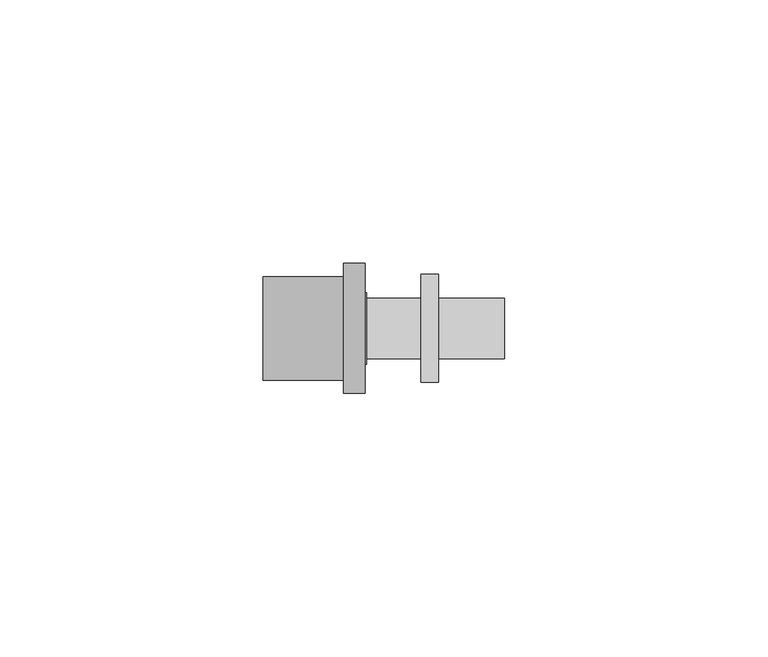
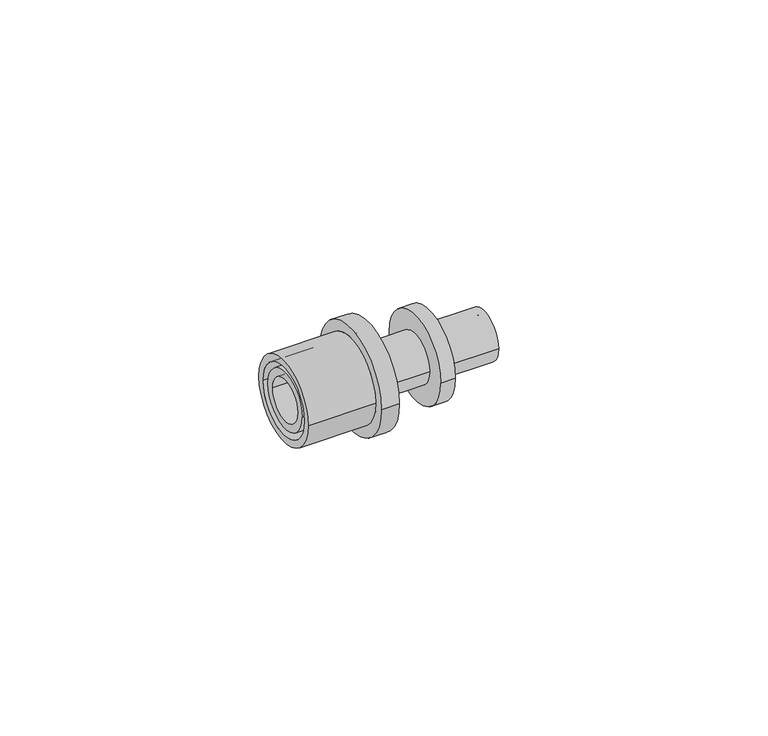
"""IFC4 building model written with IfcOpenShell, lengths in millimetres: pipe fitting geometry, FASTLOC_Adapter coupling EX+ : FSL TC EX+ AT."""

from ifc_helpers import new_model, si_unit, frame, origin, place, context, project, spatial, polyline, circle_curve, source, transform, mapped, element, save
from ifc_brep_helpers import plane_surface, cylinder_surface, revolved_surface, advanced_brep


def pipe_fitting_6d1999ba(model_context):
    return source(origin(), model_context, "Body", "AdvancedBrep", [
        advanced_brep(
        [(-4.3, -12.35, 0.0), (-4.3, 12.35, 0.0), (-0.3, 12.35, 0.0), (-0.3, -12.35, 0.0), (-19.6, -9.85, 0.0), (-19.6, 9.85, 0.0), (-4.3, 9.85, 0.0), (-4.3, -9.85, 0.0), (-0.3, -8.15, 0.0), (-0.3, 8.15, 0.0), (-19.6, 8.15, 0.0), (-19.6, -8.15, 0.0)],
        [
            (0, 1, circle_curve(frame((-4.3, 0.0, 0.0), z_axis=(1.0, 0.0, 0.0), x_axis=(0.0, 1.0, 0.0)), 12.35)),
            (1, 2),
            (2, 3, circle_curve(frame((-0.3, 0.0, 0.0), z_axis=(-1.0, 0.0, 0.0), x_axis=(0.0, 1.0, 0.0)), 12.35)),
            (3, 0),
            (4, 5, circle_curve(frame((-19.6, 0.0, 0.0), z_axis=(1.0, 0.0, 0.0), x_axis=(0.0, 1.0, 0.0)), 9.85)),
            (5, 6),
            (6, 7, circle_curve(frame((-4.3, 0.0, 0.0), z_axis=(-1.0, 0.0, 0.0), x_axis=(0.0, 1.0, 0.0)), 9.85)),
            (7, 4),
            (8, 9, circle_curve(frame((-0.3, 0.0, 0.0), z_axis=(1.0, 0.0, 0.0), x_axis=(0.0, 1.0, 0.0)), 8.15)),
            (9, 10),
            (10, 11, circle_curve(frame((-19.6, 0.0, 0.0), z_axis=(-1.0, 0.0, 0.0), x_axis=(0.0, 1.0, 0.0)), 8.15)),
            (11, 8),
            (1, 0, circle_curve(frame((-4.3, 0.0, 0.0), z_axis=(1.0, 0.0, 0.0), x_axis=(0.0, -1.0, 0.0)), 12.35)),
            (3, 2, circle_curve(frame((-0.3, 0.0, 0.0), z_axis=(-1.0, 0.0, 0.0), x_axis=(0.0, -1.0, 0.0)), 12.35)),
            (6, 7, circle_curve(frame((-4.3, 0.0, 0.0), z_axis=(1.0, 0.0, 0.0), x_axis=(0.0, -1.0, 0.0)), 9.85)),
            (5, 4, circle_curve(frame((-19.6, 0.0, 0.0), z_axis=(1.0, 0.0, 0.0), x_axis=(0.0, -1.0, 0.0)), 9.85)),
            (10, 11, circle_curve(frame((-19.6, 0.0, 0.0), z_axis=(1.0, 0.0, 0.0), x_axis=(0.0, -1.0, 0.0)), 8.15)),
            (9, 8, circle_curve(frame((-0.3, 0.0, 0.0), z_axis=(1.0, 0.0, 0.0), x_axis=(0.0, -1.0, 0.0)), 8.15)),
        ],
        [
            cylinder_surface(frame((-0.3, 0.0, 0.0), z_axis=(-1.0, 0.0, 0.0), x_axis=(0.0, 1.0, 0.0)), 12.35),
            cylinder_surface(frame((-0.3, 0.0, 0.0), z_axis=(-1.0, 0.0, 0.0), x_axis=(0.0, 1.0, 0.0)), 9.85),
            revolved_surface(polyline([(-19.6, 8.15, 0.0), (-0.3, 8.15, 0.0)]), (-0.3, 0.0, 0.0), (-1.0, 0.0, 0.0)),
            cylinder_surface(frame((-0.3, 0.0, 0.0), z_axis=(-1.0, 0.0, 0.0), x_axis=(0.0, -1.0, 0.0)), 12.35),
            plane_surface(frame((-4.3, 0.0, 0.0), z_axis=(-1.0, 0.0, 0.0), x_axis=(0.0, -1.0, 0.0))),
            cylinder_surface(frame((-0.3, 0.0, 0.0), z_axis=(-1.0, 0.0, 0.0), x_axis=(0.0, -1.0, 0.0)), 9.85),
            plane_surface(frame((-19.6, 0.0, 0.0), z_axis=(-1.0, 0.0, 0.0), x_axis=(0.0, -1.0, 0.0))),
            revolved_surface(polyline([(-19.6, -8.15, 0.0), (-0.3, -8.15, 0.0)]), (-0.3, 0.0, 0.0), (-1.0, 0.0, 0.0)),
            plane_surface(frame((-0.3, 0.0, 0.0), z_axis=(1.0, 0.0, 0.0), x_axis=(0.0, -1.0, 0.0))),
        ],
        [
            (0, [[1, 2, 3, 4]]),
            (1, [[5, 6, 7, 8]]),
            (2, [[9, 10, 11, 12]]),
            (3, [[13, -4, 14, -2]]),
            (4, [[-13, -1], [15, -7]]),
            (5, [[16, -8, -15, -6]]),
            (6, [[-16, -5], [17, -11]]),
            (7, [[18, -12, -17, -10]]),
            (8, [[-14, -3], [-18, -9]]),
        ],
    ),
        advanced_brep(
        [(0.0, 3.95, 0.0), (0.0, -3.95, 0.0), (26.2, -3.95, 0.0), (26.2, 3.95, 0.0), (10.4, 5.75, 0.0), (10.4, -5.75, 0.0), (0.0, -5.75, 0.0), (0.0, 5.75, 0.0), (13.7, 10.25, 0.0), (13.7, -10.25, 0.0), (10.4, -10.25, 0.0), (10.4, 10.25, 0.0), (26.2, 5.75, 0.0), (26.2, -5.75, 0.0), (13.7, -5.75, 0.0), (13.7, 5.75, 0.0)],
        [
            (0, 1, circle_curve(frame((0.0, 0.0, 0.0), z_axis=(-1.0, 0.0, 0.0), x_axis=(0.0, -1.0, 0.0)), 3.95)),
            (1, 2),
            (2, 3, circle_curve(frame((26.2, 0.0, 0.0), z_axis=(1.0, 0.0, 0.0), x_axis=(0.0, -1.0, 0.0)), 3.95)),
            (3, 0),
            (4, 5, circle_curve(frame((10.4, 0.0, 0.0), z_axis=(-1.0, 0.0, 0.0), x_axis=(0.0, -1.0, 0.0)), 5.75)),
            (5, 6),
            (6, 7, circle_curve(frame((0.0, 0.0, 0.0), z_axis=(1.0, 0.0, 0.0), x_axis=(0.0, -1.0, 0.0)), 5.75)),
            (7, 4),
            (8, 9, circle_curve(frame((13.7, 0.0, 0.0), z_axis=(-1.0, 0.0, 0.0), x_axis=(0.0, -1.0, 0.0)), 10.25)),
            (9, 10),
            (10, 11, circle_curve(frame((10.4, 0.0, 0.0), z_axis=(1.0, 0.0, 0.0), x_axis=(0.0, -1.0, 0.0)), 10.25)),
            (11, 8),
            (12, 13, circle_curve(frame((26.2, 0.0, 0.0), z_axis=(-1.0, 0.0, 0.0), x_axis=(0.0, -1.0, 0.0)), 5.75)),
            (13, 14),
            (14, 15, circle_curve(frame((13.7, 0.0, 0.0), z_axis=(1.0, 0.0, 0.0), x_axis=(0.0, -1.0, 0.0)), 5.75)),
            (15, 12),
            (1, 0, circle_curve(frame((0.0, 0.0, 0.0), z_axis=(-1.0, 0.0, 0.0), x_axis=(0.0, 1.0, 0.0)), 3.95)),
            (3, 2, circle_curve(frame((26.2, 0.0, 0.0), z_axis=(1.0, 0.0, 0.0), x_axis=(0.0, 1.0, 0.0)), 3.95)),
            (6, 7, circle_curve(frame((0.0, 0.0, 0.0), z_axis=(-1.0, 0.0, 0.0), x_axis=(0.0, 1.0, 0.0)), 5.75)),
            (5, 4, circle_curve(frame((10.4, 0.0, 0.0), z_axis=(-1.0, 0.0, 0.0), x_axis=(0.0, 1.0, 0.0)), 5.75)),
            (10, 11, circle_curve(frame((10.4, 0.0, 0.0), z_axis=(-1.0, 0.0, 0.0), x_axis=(0.0, 1.0, 0.0)), 10.25)),
            (9, 8, circle_curve(frame((13.7, 0.0, 0.0), z_axis=(-1.0, 0.0, 0.0), x_axis=(0.0, 1.0, 0.0)), 10.25)),
            (14, 15, circle_curve(frame((13.7, 0.0, 0.0), z_axis=(-1.0, 0.0, 0.0), x_axis=(0.0, 1.0, 0.0)), 5.75)),
            (13, 12, circle_curve(frame((26.2, 0.0, 0.0), z_axis=(-1.0, 0.0, 0.0), x_axis=(0.0, 1.0, 0.0)), 5.75)),
        ],
        [
            revolved_surface(polyline([(26.2, -3.95, 0.0), (0.0, -3.95, 0.0)]), (0.0, 0.0, 0.0), (1.0, 0.0, 0.0)),
            cylinder_surface(frame((0.0, 0.0, 0.0), z_axis=(1.0, 0.0, 0.0), x_axis=(0.0, -1.0, 0.0)), 5.75),
            cylinder_surface(frame((0.0, 0.0, 0.0), z_axis=(1.0, 0.0, 0.0), x_axis=(0.0, -1.0, 0.0)), 10.25),
            revolved_surface(polyline([(26.2, 3.95, 0.0), (0.0, 3.95, 0.0)]), (0.0, 0.0, 0.0), (1.0, 0.0, 0.0)),
            plane_surface(frame((0.0, 0.0, 0.0), z_axis=(-1.0, 0.0, 0.0), x_axis=(0.0, 1.0, 0.0))),
            cylinder_surface(frame((0.0, 0.0, 0.0), z_axis=(1.0, 0.0, 0.0), x_axis=(0.0, 1.0, 0.0)), 5.75),
            plane_surface(frame((10.4, 0.0, 0.0), z_axis=(-1.0, 0.0, 0.0), x_axis=(0.0, 1.0, 0.0))),
            cylinder_surface(frame((0.0, 0.0, 0.0), z_axis=(1.0, 0.0, 0.0), x_axis=(0.0, 1.0, 0.0)), 10.25),
            plane_surface(frame((13.7, 0.0, 0.0), z_axis=(1.0, 0.0, 0.0), x_axis=(0.0, 1.0, 0.0))),
            plane_surface(frame((26.2, 0.0, 0.0), z_axis=(1.0, 0.0, 0.0), x_axis=(0.0, 1.0, 0.0))),
        ],
        [
            (0, [[1, 2, 3, 4]]),
            (1, [[5, 6, 7, 8]]),
            (2, [[9, 10, 11, 12]]),
            (1, [[13, 14, 15, 16]]),
            (3, [[17, -4, 18, -2]]),
            (4, [[19, -7], [-17, -1]]),
            (5, [[20, -8, -19, -6]]),
            (6, [[21, -11], [-20, -5]]),
            (7, [[22, -12, -21, -10]]),
            (8, [[-22, -9], [23, -15]]),
            (5, [[24, -16, -23, -14]]),
            (9, [[-24, -13], [-18, -3]]),
        ],
    ),
        advanced_brep(
        [(-4.3, 6.8, 0.0), (-4.3, -6.8, 0.0), (-19.3, -6.8, 0.0), (-19.3, 6.8, 0.0), (-1.6, 7.9, 0.0), (-1.6, -7.9, 0.0), (-4.3, -7.9, 0.0), (-4.3, 7.9, 0.0), (0.0, 6.8, 0.0), (0.0, -6.8, 0.0), (-1.6, -6.8, 0.0), (-1.6, 6.8, 0.0), (-19.3, 4.95, 0.0), (-19.3, -4.95, 0.0), (0.0, -4.95, 0.0), (0.0, 4.95, 0.0)],
        [
            (0, 1, circle_curve(frame((-4.3, 0.0, 0.0), z_axis=(-1.0, 0.0, 0.0), x_axis=(0.0, -1.0, 0.0)), 6.8)),
            (1, 2),
            (2, 3, circle_curve(frame((-19.3, 0.0, 0.0), z_axis=(1.0, 0.0, 0.0), x_axis=(0.0, -1.0, 0.0)), 6.8)),
            (3, 0),
            (4, 5, circle_curve(frame((-1.6, 0.0, 0.0), z_axis=(-1.0, 0.0, 0.0), x_axis=(0.0, -1.0, 0.0)), 7.9)),
            (5, 6),
            (6, 7, circle_curve(frame((-4.3, 0.0, 0.0), z_axis=(1.0, 0.0, 0.0), x_axis=(0.0, -1.0, 0.0)), 7.9)),
            (7, 4),
            (8, 9, circle_curve(frame((0.0, 0.0, 0.0), z_axis=(-1.0, 0.0, 0.0), x_axis=(0.0, -1.0, 0.0)), 6.8)),
            (9, 10),
            (10, 11, circle_curve(frame((-1.6, 0.0, 0.0), z_axis=(1.0, 0.0, 0.0), x_axis=(0.0, -1.0, 0.0)), 6.8)),
            (11, 8),
            (12, 13, circle_curve(frame((-19.3, 0.0, 0.0), z_axis=(-1.0, 0.0, 0.0), x_axis=(0.0, -1.0, 0.0)), 4.95)),
            (13, 14),
            (14, 15, circle_curve(frame((0.0, 0.0, 0.0), z_axis=(1.0, 0.0, 0.0), x_axis=(0.0, -1.0, 0.0)), 4.95)),
            (15, 12),
            (2, 3, circle_curve(frame((-19.3, 0.0, 0.0), z_axis=(-1.0, 0.0, 0.0), x_axis=(0.0, 1.0, 0.0)), 6.8)),
            (12, 13, circle_curve(frame((-19.3, 0.0, 0.0), z_axis=(1.0, 0.0, 0.0), x_axis=(0.0, 1.0, 0.0)), 4.95)),
            (1, 0, circle_curve(frame((-4.3, 0.0, 0.0), z_axis=(-1.0, 0.0, 0.0), x_axis=(0.0, 1.0, 0.0)), 6.8)),
            (6, 7, circle_curve(frame((-4.3, 0.0, 0.0), z_axis=(-1.0, 0.0, 0.0), x_axis=(0.0, 1.0, 0.0)), 7.9)),
            (5, 4, circle_curve(frame((-1.6, 0.0, 0.0), z_axis=(-1.0, 0.0, 0.0), x_axis=(0.0, 1.0, 0.0)), 7.9)),
            (10, 11, circle_curve(frame((-1.6, 0.0, 0.0), z_axis=(-1.0, 0.0, 0.0), x_axis=(0.0, 1.0, 0.0)), 6.8)),
            (9, 8, circle_curve(frame((0.0, 0.0, 0.0), z_axis=(-1.0, 0.0, 0.0), x_axis=(0.0, 1.0, 0.0)), 6.8)),
            (14, 15, circle_curve(frame((0.0, 0.0, 0.0), z_axis=(-1.0, 0.0, 0.0), x_axis=(0.0, 1.0, 0.0)), 4.95)),
        ],
        [
            cylinder_surface(frame((0.0, 0.0, 0.0), z_axis=(1.0, 0.0, 0.0), x_axis=(0.0, -1.0, 0.0)), 6.8),
            cylinder_surface(frame((0.0, 0.0, 0.0), z_axis=(1.0, 0.0, 0.0), x_axis=(0.0, -1.0, 0.0)), 7.9),
            revolved_surface(polyline([(0.0, -4.95, 0.0), (-19.3, -4.95, 0.0)]), (0.0, 0.0, 0.0), (1.0, 0.0, 0.0)),
            plane_surface(frame((-19.3, 0.0, 0.0), z_axis=(-1.0, 0.0, 0.0), x_axis=(0.0, 1.0, 0.0))),
            cylinder_surface(frame((0.0, 0.0, 0.0), z_axis=(1.0, 0.0, 0.0), x_axis=(0.0, 1.0, 0.0)), 6.8),
            plane_surface(frame((-4.3, 0.0, 0.0), z_axis=(-1.0, 0.0, 0.0), x_axis=(0.0, 1.0, 0.0))),
            cylinder_surface(frame((0.0, 0.0, 0.0), z_axis=(1.0, 0.0, 0.0), x_axis=(0.0, 1.0, 0.0)), 7.9),
            plane_surface(frame((-1.6, 0.0, 0.0), z_axis=(1.0, 0.0, 0.0), x_axis=(0.0, 1.0, 0.0))),
            plane_surface(frame((0.0, 0.0, 0.0), z_axis=(1.0, 0.0, 0.0), x_axis=(0.0, 1.0, 0.0))),
            revolved_surface(polyline([(0.0, 4.95, 0.0), (-19.3, 4.95, 0.0)]), (0.0, 0.0, 0.0), (1.0, 0.0, 0.0)),
        ],
        [
            (0, [[1, 2, 3, 4]]),
            (1, [[5, 6, 7, 8]]),
            (0, [[9, 10, 11, 12]]),
            (2, [[13, 14, 15, 16]]),
            (3, [[17, -3], [18, -13]]),
            (4, [[19, -4, -17, -2]]),
            (5, [[20, -7], [-19, -1]]),
            (6, [[21, -8, -20, -6]]),
            (7, [[-21, -5], [22, -11]]),
            (4, [[23, -12, -22, -10]]),
            (8, [[-23, -9], [24, -15]]),
            (9, [[-18, -16, -24, -14]]),
        ],
    ),
    ])


if __name__ == "__main__":
    model = new_model("IFC4")
    model_context = context("Model", 3, world=origin())
    ifc_project = project(units=[si_unit("LENGTHUNIT", "METRE", prefix="MILLI")], contexts=[model_context])
    site = spatial("IfcSite", under=ifc_project)
    building = spatial("IfcBuilding", under=site)
    placement = place(None, origin())
    pipe_fitting_shape = pipe_fitting_6d1999ba(model_context)
    element("IfcPipeFitting", 1, ObjectType="FASTLOC_Adapter coupling EX+ : FSL TC EX+ AT", at=placement, inside=building, context=model_context, shape_type="MappedRepresentation", body=[
        mapped(pipe_fitting_shape, transform((0.0, 0.0, 0.0), x_axis=(1.0, 0.0, 0.0), y_axis=(0.0, 1.0, 0.0), z_axis=(0.0, 0.0, 1.0))),
    ])
    save(model, "model.ifc")
